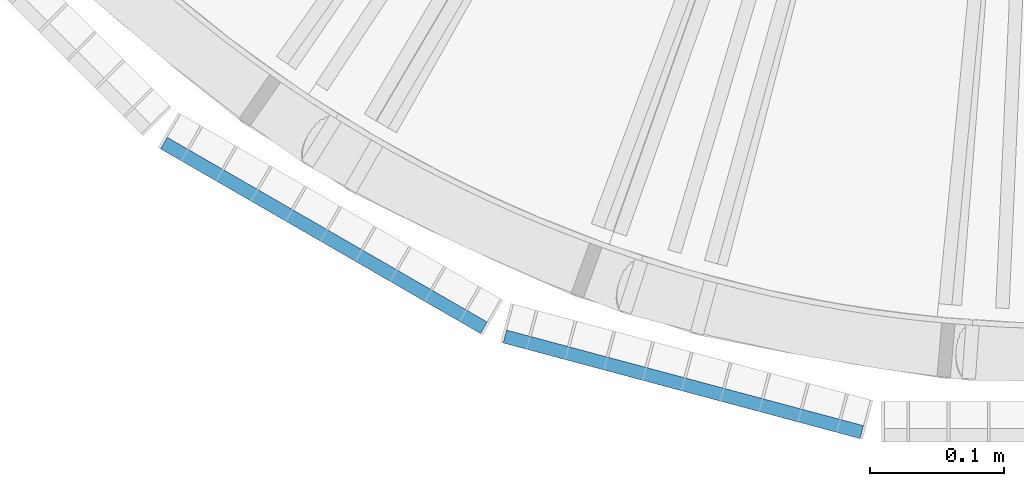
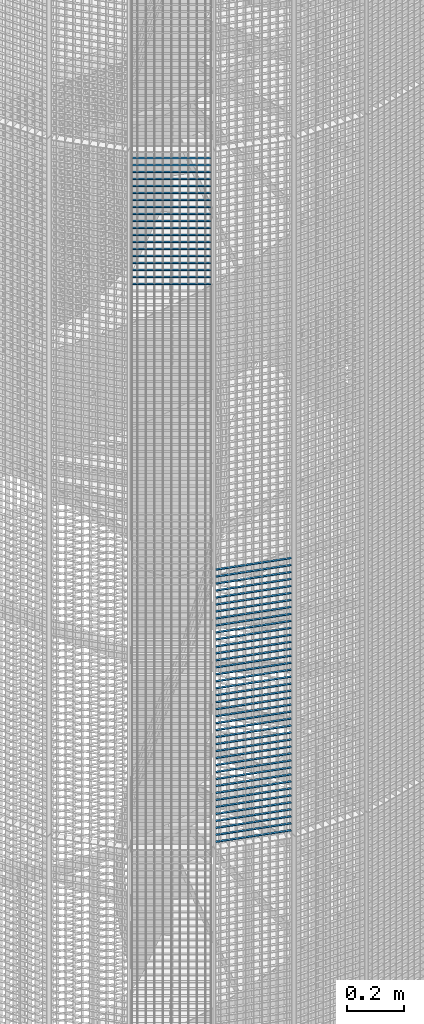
# One storey, part 159 of 1183: 59 beams, 2 elements without a shape of their own.
"""IFC2X3 building model written with IfcOpenShell, lengths in millimetres."""

from ifc_helpers import new_model, si_unit, frame, origin_with_axes, origin_2d_with_axis, place, context, subcontext, project, spatial, rectangle, extrude, material, type_object, element, aggregate, save


model = new_model("IFC2X3")

# Units and contexts
model_context = context("Model", 3, precision=1e-05, world=origin_with_axes())
body_context = subcontext(model_context, "Body", "Model", "MODEL_VIEW")
ifc_project = project(units=[si_unit("LENGTHUNIT", "METRE", prefix="MILLI"), si_unit("AREAUNIT", "SQUARE_METRE"), si_unit("VOLUMEUNIT", "CUBIC_METRE"), si_unit("MASSUNIT", "GRAM", prefix="KILO"), si_unit("TIMEUNIT", "SECOND"), si_unit("PLANEANGLEUNIT", "RADIAN"), si_unit("SOLIDANGLEUNIT", "STERADIAN"), si_unit("THERMODYNAMICTEMPERATUREUNIT", "DEGREE_CELSIUS"), si_unit("LUMINOUSINTENSITYUNIT", "LUMEN")], contexts=[model_context])

# Site, building, storey
site_placement = place(None, origin_with_axes())
site = spatial("IfcSite", under=ifc_project, at=site_placement, Name="Undefined", CompositionType="ELEMENT")
building_placement = place(site_placement, origin_with_axes())
building = spatial("IfcBuilding", under=site, at=building_placement, Name="Undefined", CompositionType="ELEMENT")
storey_placement = place(building_placement, origin_with_axes())
storey = spatial("IfcBuildingStorey", under=building, at=storey_placement, Name="Undefined", CompositionType="ELEMENT", Elevation=0.0)

# Assembly, beams
assembly_1_placement = place(storey_placement, origin_with_axes())
assembly_1 = element("IfcElementAssembly", 1, at=assembly_1_placement, inside=storey, Name="BORDURE", AssemblyPlace="NOTDEFINED", PredefinedType="NOTDEFINED")
ifc_material = material(Name="STEEL/S235JR")
beam_type = type_object("IfcBeamType", Name="PL2*10", PredefinedType="NOTDEFINED")
beam_1_placement = place(assembly_1_placement, frame((-421.483733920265, -1039.82309522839, 7200.0), z_axis=(-0.258819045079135, -0.965925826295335, 0.0), x_axis=(0.965925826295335, -0.258819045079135, 0.0)))
beam_1 = element("IfcBeam", 2, at=beam_1_placement, type_object=beam_type, material=ifc_material, Name="ENTRETOISE", context=body_context, shape_type="SweptSolid", body=[
    extrude(rectangle(XDim=2.0, YDim=10.0, at=origin_2d_with_axis()), frame((275.999999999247, 9.09494701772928e-13, 1.53210777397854e-14), z_axis=(-1.0, 0.0, 0.0), x_axis=(0.0, -1.0, 0.0)), (0.0, 0.0, 1.0), 276.0),
])
beam_2_placement = place(assembly_1_placement, frame((-421.483733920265, -1039.82309522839, 7170.0), z_axis=(-0.258819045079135, -0.965925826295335, 0.0), x_axis=(0.965925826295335, -0.258819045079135, 0.0)))
beam_2 = element("IfcBeam", 3, at=beam_2_placement, type_object=beam_type, material=ifc_material, Name="ENTRETOISE", context=body_context, shape_type="SweptSolid", body=[
    extrude(rectangle(XDim=2.0, YDim=10.0, at=origin_2d_with_axis()), frame((275.999999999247, 9.09494701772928e-13, 1.53210777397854e-14), z_axis=(-1.0, 0.0, 0.0), x_axis=(0.0, -1.0, 0.0)), (0.0, 0.0, 1.0), 276.0),
])
beam_3_placement = place(assembly_1_placement, frame((-421.483733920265, -1039.82309522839, 7140.0), z_axis=(-0.258819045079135, -0.965925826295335, 0.0), x_axis=(0.965925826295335, -0.258819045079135, 0.0)))
beam_3 = element("IfcBeam", 4, at=beam_3_placement, type_object=beam_type, material=ifc_material, Name="ENTRETOISE", context=body_context, shape_type="SweptSolid", body=[
    extrude(rectangle(XDim=2.0, YDim=10.0, at=origin_2d_with_axis()), frame((275.999999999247, 9.09494701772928e-13, 1.53210777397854e-14), z_axis=(-1.0, 0.0, 0.0), x_axis=(0.0, -1.0, 0.0)), (0.0, 0.0, 1.0), 276.0),
])
beam_4_placement = place(assembly_1_placement, frame((-421.483733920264, -1039.82309522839, 6720.0), z_axis=(-0.258819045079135, -0.965925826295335, 0.0), x_axis=(0.965925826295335, -0.258819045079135, 0.0)))
beam_4 = element("IfcBeam", 5, at=beam_4_placement, type_object=beam_type, material=ifc_material, Name="ENTRETOISE", context=body_context, shape_type="SweptSolid", body=[
    extrude(rectangle(XDim=2.0, YDim=10.0, at=origin_2d_with_axis()), frame((275.999999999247, 9.09494701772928e-13, 1.53210777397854e-14), z_axis=(-1.0, 0.0, 0.0), x_axis=(0.0, -1.0, 0.0)), (0.0, 0.0, 1.0), 276.0),
])
beam_5_placement = place(assembly_1_placement, frame((-421.483733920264, -1039.82309522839, 6690.0), z_axis=(-0.258819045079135, -0.965925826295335, 0.0), x_axis=(0.965925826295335, -0.258819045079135, 0.0)))
beam_5 = element("IfcBeam", 6, at=beam_5_placement, type_object=beam_type, material=ifc_material, Name="ENTRETOISE", context=body_context, shape_type="SweptSolid", body=[
    extrude(rectangle(XDim=2.0, YDim=10.0, at=origin_2d_with_axis()), frame((275.999999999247, 9.09494701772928e-13, 1.53210777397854e-14), z_axis=(-1.0, 0.0, 0.0), x_axis=(0.0, -1.0, 0.0)), (0.0, 0.0, 1.0), 276.0),
])
beam_6_placement = place(assembly_1_placement, frame((-421.483733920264, -1039.82309522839, 6750.0), z_axis=(-0.258819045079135, -0.965925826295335, 0.0), x_axis=(0.965925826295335, -0.258819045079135, 0.0)))
beam_6 = element("IfcBeam", 7, at=beam_6_placement, type_object=beam_type, material=ifc_material, Name="ENTRETOISE", context=body_context, shape_type="SweptSolid", body=[
    extrude(rectangle(XDim=2.0, YDim=10.0, at=origin_2d_with_axis()), frame((275.999999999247, 9.09494701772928e-13, 1.53210777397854e-14), z_axis=(-1.0, 0.0, 0.0), x_axis=(0.0, -1.0, 0.0)), (0.0, 0.0, 1.0), 276.0),
])
beam_7_placement = place(assembly_1_placement, frame((-421.483733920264, -1039.82309522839, 6660.0), z_axis=(-0.258819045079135, -0.965925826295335, 0.0), x_axis=(0.965925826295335, -0.258819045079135, 0.0)))
beam_7 = element("IfcBeam", 8, at=beam_7_placement, type_object=beam_type, material=ifc_material, Name="ENTRETOISE", context=body_context, shape_type="SweptSolid", body=[
    extrude(rectangle(XDim=2.0, YDim=10.0, at=origin_2d_with_axis()), frame((275.999999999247, 9.09494701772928e-13, 1.53210777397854e-14), z_axis=(-1.0, 0.0, 0.0), x_axis=(0.0, -1.0, 0.0)), (0.0, 0.0, 1.0), 276.0),
])
beam_8_placement = place(assembly_1_placement, frame((-421.483733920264, -1039.82309522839, 6630.0), z_axis=(-0.258819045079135, -0.965925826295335, 0.0), x_axis=(0.965925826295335, -0.258819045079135, 0.0)))
beam_8 = element("IfcBeam", 9, at=beam_8_placement, type_object=beam_type, material=ifc_material, Name="ENTRETOISE", context=body_context, shape_type="SweptSolid", body=[
    extrude(rectangle(XDim=2.0, YDim=10.0, at=origin_2d_with_axis()), frame((275.999999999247, 9.09494701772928e-13, 1.53210777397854e-14), z_axis=(-1.0, 0.0, 0.0), x_axis=(0.0, -1.0, 0.0)), (0.0, 0.0, 1.0), 276.0),
])
beam_9_placement = place(assembly_1_placement, frame((-421.483733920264, -1039.82309522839, 6780.0), z_axis=(-0.258819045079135, -0.965925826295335, 0.0), x_axis=(0.965925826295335, -0.258819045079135, 0.0)))
beam_9 = element("IfcBeam", 10, at=beam_9_placement, type_object=beam_type, material=ifc_material, Name="ENTRETOISE", context=body_context, shape_type="SweptSolid", body=[
    extrude(rectangle(XDim=2.0, YDim=10.0, at=origin_2d_with_axis()), frame((275.999999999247, 9.09494701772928e-13, 1.53210777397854e-14), z_axis=(-1.0, 0.0, 0.0), x_axis=(0.0, -1.0, 0.0)), (0.0, 0.0, 1.0), 276.0),
])
beam_10_placement = place(assembly_1_placement, frame((-421.483733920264, -1039.82309522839, 6600.0), z_axis=(-0.258819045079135, -0.965925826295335, 0.0), x_axis=(0.965925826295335, -0.258819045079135, 0.0)))
beam_10 = element("IfcBeam", 11, at=beam_10_placement, type_object=beam_type, material=ifc_material, Name="ENTRETOISE", context=body_context, shape_type="SweptSolid", body=[
    extrude(rectangle(XDim=2.0, YDim=10.0, at=origin_2d_with_axis()), frame((275.999999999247, 9.09494701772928e-13, 1.53210777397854e-14), z_axis=(-1.0, 0.0, 0.0), x_axis=(0.0, -1.0, 0.0)), (0.0, 0.0, 1.0), 276.0),
])
beam_11_placement = place(assembly_1_placement, frame((-421.483733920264, -1039.82309522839, 6810.0), z_axis=(-0.258819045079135, -0.965925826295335, 0.0), x_axis=(0.965925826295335, -0.258819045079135, 0.0)))
beam_11 = element("IfcBeam", 12, at=beam_11_placement, type_object=beam_type, material=ifc_material, Name="ENTRETOISE", context=body_context, shape_type="SweptSolid", body=[
    extrude(rectangle(XDim=2.0, YDim=10.0, at=origin_2d_with_axis()), frame((275.999999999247, 9.09494701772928e-13, 1.53210777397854e-14), z_axis=(-1.0, 0.0, 0.0), x_axis=(0.0, -1.0, 0.0)), (0.0, 0.0, 1.0), 276.0),
])
beam_12_placement = place(assembly_1_placement, frame((-421.483733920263, -1039.82309522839, 6570.0), z_axis=(-0.258819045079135, -0.965925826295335, 0.0), x_axis=(0.965925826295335, -0.258819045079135, 0.0)))
beam_12 = element("IfcBeam", 13, at=beam_12_placement, type_object=beam_type, material=ifc_material, Name="ENTRETOISE", context=body_context, shape_type="SweptSolid", body=[
    extrude(rectangle(XDim=2.0, YDim=10.0, at=origin_2d_with_axis()), frame((275.999999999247, 9.09494701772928e-13, 1.53210777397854e-14), z_axis=(-1.0, 0.0, 0.0), x_axis=(0.0, -1.0, 0.0)), (0.0, 0.0, 1.0), 276.0),
])
beam_13_placement = place(assembly_1_placement, frame((-421.483733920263, -1039.82309522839, 6540.0), z_axis=(-0.258819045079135, -0.965925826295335, 0.0), x_axis=(0.965925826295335, -0.258819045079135, 0.0)))
beam_13 = element("IfcBeam", 14, at=beam_13_placement, type_object=beam_type, material=ifc_material, Name="ENTRETOISE", context=body_context, shape_type="SweptSolid", body=[
    extrude(rectangle(XDim=2.0, YDim=10.0, at=origin_2d_with_axis()), frame((275.999999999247, 9.09494701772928e-13, 1.53210777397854e-14), z_axis=(-1.0, 0.0, 0.0), x_axis=(0.0, -1.0, 0.0)), (0.0, 0.0, 1.0), 276.0),
])
beam_14_placement = place(assembly_1_placement, frame((-421.483733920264, -1039.82309522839, 6840.0), z_axis=(-0.258819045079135, -0.965925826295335, 0.0), x_axis=(0.965925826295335, -0.258819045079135, 0.0)))
beam_14 = element("IfcBeam", 15, at=beam_14_placement, type_object=beam_type, material=ifc_material, Name="ENTRETOISE", context=body_context, shape_type="SweptSolid", body=[
    extrude(rectangle(XDim=2.0, YDim=10.0, at=origin_2d_with_axis()), frame((275.999999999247, 9.09494701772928e-13, 1.53210777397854e-14), z_axis=(-1.0, 0.0, 0.0), x_axis=(0.0, -1.0, 0.0)), (0.0, 0.0, 1.0), 276.0),
])
beam_15_placement = place(assembly_1_placement, frame((-421.483733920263, -1039.82309522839, 6510.0), z_axis=(-0.258819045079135, -0.965925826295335, 0.0), x_axis=(0.965925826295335, -0.258819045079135, 0.0)))
beam_15 = element("IfcBeam", 16, at=beam_15_placement, type_object=beam_type, material=ifc_material, Name="ENTRETOISE", context=body_context, shape_type="SweptSolid", body=[
    extrude(rectangle(XDim=2.0, YDim=10.0, at=origin_2d_with_axis()), frame((275.999999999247, 9.09494701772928e-13, 1.53210777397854e-14), z_axis=(-1.0, 0.0, 0.0), x_axis=(0.0, -1.0, 0.0)), (0.0, 0.0, 1.0), 276.0),
])
beam_16_placement = place(assembly_1_placement, frame((-421.483733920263, -1039.82309522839, 6480.0), z_axis=(-0.258819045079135, -0.965925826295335, 0.0), x_axis=(0.965925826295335, -0.258819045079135, 0.0)))
beam_16 = element("IfcBeam", 17, at=beam_16_placement, type_object=beam_type, material=ifc_material, Name="ENTRETOISE", context=body_context, shape_type="SweptSolid", body=[
    extrude(rectangle(XDim=2.0, YDim=10.0, at=origin_2d_with_axis()), frame((275.999999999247, 9.09494701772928e-13, 1.53210777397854e-14), z_axis=(-1.0, 0.0, 0.0), x_axis=(0.0, -1.0, 0.0)), (0.0, 0.0, 1.0), 276.0),
])
beam_17_placement = place(assembly_1_placement, frame((-421.483733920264, -1039.82309522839, 6870.0), z_axis=(-0.258819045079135, -0.965925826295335, 0.0), x_axis=(0.965925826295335, -0.258819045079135, 0.0)))
beam_17 = element("IfcBeam", 18, at=beam_17_placement, type_object=beam_type, material=ifc_material, Name="ENTRETOISE", context=body_context, shape_type="SweptSolid", body=[
    extrude(rectangle(XDim=2.0, YDim=10.0, at=origin_2d_with_axis()), frame((275.999999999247, 9.09494701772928e-13, 1.53210777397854e-14), z_axis=(-1.0, 0.0, 0.0), x_axis=(0.0, -1.0, 0.0)), (0.0, 0.0, 1.0), 276.0),
])
beam_18_placement = place(assembly_1_placement, frame((-421.483733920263, -1039.82309522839, 6450.0), z_axis=(-0.258819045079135, -0.965925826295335, 0.0), x_axis=(0.965925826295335, -0.258819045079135, 0.0)))
beam_18 = element("IfcBeam", 19, at=beam_18_placement, type_object=beam_type, material=ifc_material, Name="ENTRETOISE", context=body_context, shape_type="SweptSolid", body=[
    extrude(rectangle(XDim=2.0, YDim=10.0, at=origin_2d_with_axis()), frame((275.999999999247, 9.09494701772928e-13, 1.53210777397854e-14), z_axis=(-1.0, 0.0, 0.0), x_axis=(0.0, -1.0, 0.0)), (0.0, 0.0, 1.0), 276.0),
])
beam_19_placement = place(assembly_1_placement, frame((-421.483733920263, -1039.82309522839, 6420.0), z_axis=(-0.258819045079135, -0.965925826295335, 0.0), x_axis=(0.965925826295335, -0.258819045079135, 0.0)))
beam_19 = element("IfcBeam", 20, at=beam_19_placement, type_object=beam_type, material=ifc_material, Name="ENTRETOISE", context=body_context, shape_type="SweptSolid", body=[
    extrude(rectangle(XDim=2.0, YDim=10.0, at=origin_2d_with_axis()), frame((275.999999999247, 9.09494701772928e-13, 1.53210777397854e-14), z_axis=(-1.0, 0.0, 0.0), x_axis=(0.0, -1.0, 0.0)), (0.0, 0.0, 1.0), 276.0),
])
beam_20_placement = place(assembly_1_placement, frame((-421.483733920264, -1039.82309522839, 6900.0), z_axis=(-0.258819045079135, -0.965925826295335, 0.0), x_axis=(0.965925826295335, -0.258819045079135, 0.0)))
beam_20 = element("IfcBeam", 21, at=beam_20_placement, type_object=beam_type, material=ifc_material, Name="ENTRETOISE", context=body_context, shape_type="SweptSolid", body=[
    extrude(rectangle(XDim=2.0, YDim=10.0, at=origin_2d_with_axis()), frame((275.999999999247, 9.09494701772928e-13, 1.53210777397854e-14), z_axis=(-1.0, 0.0, 0.0), x_axis=(0.0, -1.0, 0.0)), (0.0, 0.0, 1.0), 276.0),
])
beam_21_placement = place(assembly_1_placement, frame((-421.483733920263, -1039.82309522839, 6390.0), z_axis=(-0.258819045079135, -0.965925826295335, 0.0), x_axis=(0.965925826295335, -0.258819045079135, 0.0)))
beam_21 = element("IfcBeam", 22, at=beam_21_placement, type_object=beam_type, material=ifc_material, Name="ENTRETOISE", context=body_context, shape_type="SweptSolid", body=[
    extrude(rectangle(XDim=2.0, YDim=10.0, at=origin_2d_with_axis()), frame((275.999999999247, 9.09494701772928e-13, 1.53210777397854e-14), z_axis=(-1.0, 0.0, 0.0), x_axis=(0.0, -1.0, 0.0)), (0.0, 0.0, 1.0), 276.0),
])
beam_22_placement = place(assembly_1_placement, frame((-421.483733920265, -1039.82309522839, 6930.0), z_axis=(-0.258819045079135, -0.965925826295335, 0.0), x_axis=(0.965925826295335, -0.258819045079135, 0.0)))
beam_22 = element("IfcBeam", 23, at=beam_22_placement, type_object=beam_type, material=ifc_material, Name="ENTRETOISE", context=body_context, shape_type="SweptSolid", body=[
    extrude(rectangle(XDim=2.0, YDim=10.0, at=origin_2d_with_axis()), frame((275.999999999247, 9.09494701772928e-13, 1.53210777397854e-14), z_axis=(-1.0, 0.0, 0.0), x_axis=(0.0, -1.0, 0.0)), (0.0, 0.0, 1.0), 276.0),
])
beam_23_placement = place(assembly_1_placement, frame((-421.483733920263, -1039.82309522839, 6360.0), z_axis=(-0.258819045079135, -0.965925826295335, 0.0), x_axis=(0.965925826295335, -0.258819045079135, 0.0)))
beam_23 = element("IfcBeam", 24, at=beam_23_placement, type_object=beam_type, material=ifc_material, Name="ENTRETOISE", context=body_context, shape_type="SweptSolid", body=[
    extrude(rectangle(XDim=2.0, YDim=10.0, at=origin_2d_with_axis()), frame((275.999999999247, 9.09494701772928e-13, 1.53210777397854e-14), z_axis=(-1.0, 0.0, 0.0), x_axis=(0.0, -1.0, 0.0)), (0.0, 0.0, 1.0), 276.0),
])
beam_24_placement = place(assembly_1_placement, frame((-421.483733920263, -1039.82309522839, 6330.0), z_axis=(-0.258819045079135, -0.965925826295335, 0.0), x_axis=(0.965925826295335, -0.258819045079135, 0.0)))
beam_24 = element("IfcBeam", 25, at=beam_24_placement, type_object=beam_type, material=ifc_material, Name="ENTRETOISE", context=body_context, shape_type="SweptSolid", body=[
    extrude(rectangle(XDim=2.0, YDim=10.0, at=origin_2d_with_axis()), frame((275.999999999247, 9.09494701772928e-13, 1.53210777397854e-14), z_axis=(-1.0, 0.0, 0.0), x_axis=(0.0, -1.0, 0.0)), (0.0, 0.0, 1.0), 276.0),
])
beam_25_placement = place(assembly_1_placement, frame((-421.483733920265, -1039.82309522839, 6960.0), z_axis=(-0.258819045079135, -0.965925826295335, 0.0), x_axis=(0.965925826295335, -0.258819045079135, 0.0)))
beam_25 = element("IfcBeam", 26, at=beam_25_placement, type_object=beam_type, material=ifc_material, Name="ENTRETOISE", context=body_context, shape_type="SweptSolid", body=[
    extrude(rectangle(XDim=2.0, YDim=10.0, at=origin_2d_with_axis()), frame((275.999999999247, 9.09494701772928e-13, 1.53210777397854e-14), z_axis=(-1.0, 0.0, 0.0), x_axis=(0.0, -1.0, 0.0)), (0.0, 0.0, 1.0), 276.0),
])
beam_26_placement = place(assembly_1_placement, frame((-421.483733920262, -1039.82309522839, 6300.0), z_axis=(-0.258819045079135, -0.965925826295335, 0.0), x_axis=(0.965925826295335, -0.258819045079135, 0.0)))
beam_26 = element("IfcBeam", 27, at=beam_26_placement, type_object=beam_type, material=ifc_material, Name="ENTRETOISE", context=body_context, shape_type="SweptSolid", body=[
    extrude(rectangle(XDim=2.0, YDim=10.0, at=origin_2d_with_axis()), frame((275.999999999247, 9.09494701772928e-13, 1.53210777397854e-14), z_axis=(-1.0, 0.0, 0.0), x_axis=(0.0, -1.0, 0.0)), (0.0, 0.0, 1.0), 276.0),
])
beam_27_placement = place(assembly_1_placement, frame((-421.483733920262, -1039.82309522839, 6270.0), z_axis=(-0.258819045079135, -0.965925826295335, 0.0), x_axis=(0.965925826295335, -0.258819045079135, 0.0)))
beam_27 = element("IfcBeam", 28, at=beam_27_placement, type_object=beam_type, material=ifc_material, Name="ENTRETOISE", context=body_context, shape_type="SweptSolid", body=[
    extrude(rectangle(XDim=2.0, YDim=10.0, at=origin_2d_with_axis()), frame((275.999999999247, 9.09494701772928e-13, 1.53210777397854e-14), z_axis=(-1.0, 0.0, 0.0), x_axis=(0.0, -1.0, 0.0)), (0.0, 0.0, 1.0), 276.0),
])
beam_28_placement = place(assembly_1_placement, frame((-421.483733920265, -1039.82309522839, 6990.0), z_axis=(-0.258819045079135, -0.965925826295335, 0.0), x_axis=(0.965925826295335, -0.258819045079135, 0.0)))
beam_28 = element("IfcBeam", 29, at=beam_28_placement, type_object=beam_type, material=ifc_material, Name="ENTRETOISE", context=body_context, shape_type="SweptSolid", body=[
    extrude(rectangle(XDim=2.0, YDim=10.0, at=origin_2d_with_axis()), frame((275.999999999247, 9.09494701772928e-13, 1.53210777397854e-14), z_axis=(-1.0, 0.0, 0.0), x_axis=(0.0, -1.0, 0.0)), (0.0, 0.0, 1.0), 276.0),
])
beam_29_placement = place(assembly_1_placement, frame((-421.483733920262, -1039.82309522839, 6240.0), z_axis=(-0.258819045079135, -0.965925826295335, 0.0), x_axis=(0.965925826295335, -0.258819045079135, 0.0)))
beam_29 = element("IfcBeam", 30, at=beam_29_placement, type_object=beam_type, material=ifc_material, Name="ENTRETOISE", context=body_context, shape_type="SweptSolid", body=[
    extrude(rectangle(XDim=2.0, YDim=10.0, at=origin_2d_with_axis()), frame((275.999999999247, 9.09494701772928e-13, 1.53210777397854e-14), z_axis=(-1.0, 0.0, 0.0), x_axis=(0.0, -1.0, 0.0)), (0.0, 0.0, 1.0), 276.0),
])
beam_30_placement = place(assembly_1_placement, frame((-421.483733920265, -1039.82309522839, 7020.0), z_axis=(-0.258819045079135, -0.965925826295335, 0.0), x_axis=(0.965925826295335, -0.258819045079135, 0.0)))
beam_30 = element("IfcBeam", 31, at=beam_30_placement, type_object=beam_type, material=ifc_material, Name="ENTRETOISE", context=body_context, shape_type="SweptSolid", body=[
    extrude(rectangle(XDim=2.0, YDim=10.0, at=origin_2d_with_axis()), frame((275.999999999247, 9.09494701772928e-13, 1.53210777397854e-14), z_axis=(-1.0, 0.0, 0.0), x_axis=(0.0, -1.0, 0.0)), (0.0, 0.0, 1.0), 276.0),
])
beam_31_placement = place(assembly_1_placement, frame((-421.483733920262, -1039.82309522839, 6210.0), z_axis=(-0.258819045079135, -0.965925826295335, 0.0), x_axis=(0.965925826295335, -0.258819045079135, 0.0)))
beam_31 = element("IfcBeam", 32, at=beam_31_placement, type_object=beam_type, material=ifc_material, Name="ENTRETOISE", context=body_context, shape_type="SweptSolid", body=[
    extrude(rectangle(XDim=2.0, YDim=10.0, at=origin_2d_with_axis()), frame((275.999999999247, 9.09494701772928e-13, 1.53210777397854e-14), z_axis=(-1.0, 0.0, 0.0), x_axis=(0.0, -1.0, 0.0)), (0.0, 0.0, 1.0), 276.0),
])
beam_32_placement = place(assembly_1_placement, frame((-421.483733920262, -1039.82309522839, 6180.0), z_axis=(-0.258819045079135, -0.965925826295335, 0.0), x_axis=(0.965925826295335, -0.258819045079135, 0.0)))
beam_32 = element("IfcBeam", 33, at=beam_32_placement, type_object=beam_type, material=ifc_material, Name="ENTRETOISE", context=body_context, shape_type="SweptSolid", body=[
    extrude(rectangle(XDim=2.0, YDim=10.0, at=origin_2d_with_axis()), frame((275.999999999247, 9.09494701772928e-13, 1.53210777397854e-14), z_axis=(-1.0, 0.0, 0.0), x_axis=(0.0, -1.0, 0.0)), (0.0, 0.0, 1.0), 276.0),
])
beam_33_placement = place(assembly_1_placement, frame((-421.483733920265, -1039.82309522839, 7050.0), z_axis=(-0.258819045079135, -0.965925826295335, 0.0), x_axis=(0.965925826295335, -0.258819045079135, 0.0)))
beam_33 = element("IfcBeam", 34, at=beam_33_placement, type_object=beam_type, material=ifc_material, Name="ENTRETOISE", context=body_context, shape_type="SweptSolid", body=[
    extrude(rectangle(XDim=2.0, YDim=10.0, at=origin_2d_with_axis()), frame((275.999999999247, 9.09494701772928e-13, 1.53210777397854e-14), z_axis=(-1.0, 0.0, 0.0), x_axis=(0.0, -1.0, 0.0)), (0.0, 0.0, 1.0), 276.0),
])
beam_34_placement = place(assembly_1_placement, frame((-421.483733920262, -1039.82309522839, 6150.0), z_axis=(-0.258819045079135, -0.965925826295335, 0.0), x_axis=(0.965925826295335, -0.258819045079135, 0.0)))
beam_34 = element("IfcBeam", 35, at=beam_34_placement, type_object=beam_type, material=ifc_material, Name="ENTRETOISE", context=body_context, shape_type="SweptSolid", body=[
    extrude(rectangle(XDim=2.0, YDim=10.0, at=origin_2d_with_axis()), frame((275.999999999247, 9.09494701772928e-13, 1.53210777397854e-14), z_axis=(-1.0, 0.0, 0.0), x_axis=(0.0, -1.0, 0.0)), (0.0, 0.0, 1.0), 276.0),
])
beam_35_placement = place(assembly_1_placement, frame((-421.483733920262, -1039.82309522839, 6120.0), z_axis=(-0.258819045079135, -0.965925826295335, 0.0), x_axis=(0.965925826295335, -0.258819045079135, 0.0)))
beam_35 = element("IfcBeam", 36, at=beam_35_placement, type_object=beam_type, material=ifc_material, Name="ENTRETOISE", context=body_context, shape_type="SweptSolid", body=[
    extrude(rectangle(XDim=2.0, YDim=10.0, at=origin_2d_with_axis()), frame((275.999999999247, 9.09494701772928e-13, 1.53210777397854e-14), z_axis=(-1.0, 0.0, 0.0), x_axis=(0.0, -1.0, 0.0)), (0.0, 0.0, 1.0), 276.0),
])
beam_36_placement = place(assembly_1_placement, frame((-421.483733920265, -1039.82309522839, 7080.0), z_axis=(-0.258819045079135, -0.965925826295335, 0.0), x_axis=(0.965925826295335, -0.258819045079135, 0.0)))
beam_36 = element("IfcBeam", 37, at=beam_36_placement, type_object=beam_type, material=ifc_material, Name="ENTRETOISE", context=body_context, shape_type="SweptSolid", body=[
    extrude(rectangle(XDim=2.0, YDim=10.0, at=origin_2d_with_axis()), frame((275.999999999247, 9.09494701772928e-13, 1.53210777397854e-14), z_axis=(-1.0, 0.0, 0.0), x_axis=(0.0, -1.0, 0.0)), (0.0, 0.0, 1.0), 276.0),
])
beam_37_placement = place(assembly_1_placement, frame((-421.483733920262, -1039.82309522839, 6090.0), z_axis=(-0.258819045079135, -0.965925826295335, 0.0), x_axis=(0.965925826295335, -0.258819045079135, 0.0)))
beam_37 = element("IfcBeam", 38, at=beam_37_placement, type_object=beam_type, material=ifc_material, Name="ENTRETOISE", context=body_context, shape_type="SweptSolid", body=[
    extrude(rectangle(XDim=2.0, YDim=10.0, at=origin_2d_with_axis()), frame((275.999999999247, 9.09494701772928e-13, 1.53210777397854e-14), z_axis=(-1.0, 0.0, 0.0), x_axis=(0.0, -1.0, 0.0)), (0.0, 0.0, 1.0), 276.0),
])
beam_38_placement = place(assembly_1_placement, frame((-421.483733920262, -1039.82309522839, 6060.0), z_axis=(-0.258819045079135, -0.965925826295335, 0.0), x_axis=(0.965925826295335, -0.258819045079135, 0.0)))
beam_38 = element("IfcBeam", 39, at=beam_38_placement, type_object=beam_type, material=ifc_material, Name="ENTRETOISE", context=body_context, shape_type="SweptSolid", body=[
    extrude(rectangle(XDim=2.0, YDim=10.0, at=origin_2d_with_axis()), frame((275.999999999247, 9.09494701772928e-13, 1.53210777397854e-14), z_axis=(-1.0, 0.0, 0.0), x_axis=(0.0, -1.0, 0.0)), (0.0, 0.0, 1.0), 276.0),
])
beam_39_placement = place(assembly_1_placement, frame((-421.483733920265, -1039.82309522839, 7110.0), z_axis=(-0.258819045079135, -0.965925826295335, 0.0), x_axis=(0.965925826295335, -0.258819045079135, 0.0)))
beam_39 = element("IfcBeam", 40, at=beam_39_placement, type_object=beam_type, material=ifc_material, Name="ENTRETOISE", context=body_context, shape_type="SweptSolid", body=[
    extrude(rectangle(XDim=2.0, YDim=10.0, at=origin_2d_with_axis()), frame((275.999999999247, 9.09494701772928e-13, 1.53210777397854e-14), z_axis=(-1.0, 0.0, 0.0), x_axis=(0.0, -1.0, 0.0)), (0.0, 0.0, 1.0), 276.0),
])
beam_40_placement = place(assembly_1_placement, frame((-421.48373392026, -1039.82309522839, 6030.0), z_axis=(-0.258819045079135, -0.965925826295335, 0.0), x_axis=(0.965925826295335, -0.258819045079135, 0.0)))
beam_40 = element("IfcBeam", 41, at=beam_40_placement, type_object=beam_type, material=ifc_material, Name="ENTRETOISE", context=body_context, shape_type="SweptSolid", body=[
    extrude(rectangle(XDim=2.0, YDim=10.0, at=origin_2d_with_axis()), frame((275.999999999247, 9.09494701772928e-13, 1.53210777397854e-14), z_axis=(-1.0, 0.0, 0.0), x_axis=(0.0, -1.0, 0.0)), (0.0, 0.0, 1.0), 276.0),
])
aggregate(assembly_1, [beam_1, beam_2, beam_3, beam_4, beam_5, beam_6, beam_7, beam_8, beam_9, beam_10, beam_11, beam_12, beam_13, beam_14, beam_15, beam_16, beam_17, beam_18, beam_19, beam_20, beam_21, beam_22, beam_23, beam_24, beam_25, beam_26, beam_27, beam_28, beam_29, beam_30, beam_31, beam_32, beam_33, beam_34, beam_35, beam_36, beam_37, beam_38, beam_39, beam_40])

assembly_2_placement = place(storey_placement, origin_with_axes())
assembly_2 = element("IfcElementAssembly", 42, at=assembly_2_placement, inside=storey, Name="BORDURE", AssemblyPlace="NOTDEFINED", PredefinedType="NOTDEFINED")
beam_41_placement = place(assembly_2_placement, frame((-676.248044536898, -895.303964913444, 8970.0), z_axis=(-0.49999999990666, -0.866025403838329, 0.0), x_axis=(0.866025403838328, -0.49999999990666, 0.0)))
beam_41 = element("IfcBeam", 43, at=beam_41_placement, type_object=beam_type, material=ifc_material, Name="ENTRETOISE", context=body_context, shape_type="SweptSolid", body=[
    extrude(rectangle(XDim=2.0, YDim=10.0, at=origin_2d_with_axis()), frame((275.999999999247, 9.09494701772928e-13, 1.53210777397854e-14), z_axis=(-1.0, 0.0, 0.0), x_axis=(0.0, -1.0, 0.0)), (0.0, 0.0, 1.0), 276.0),
])
beam_42_placement = place(assembly_2_placement, frame((-676.248044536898, -895.303964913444, 8940.0), z_axis=(-0.49999999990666, -0.866025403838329, 0.0), x_axis=(0.866025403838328, -0.49999999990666, 0.0)))
beam_42 = element("IfcBeam", 44, at=beam_42_placement, type_object=beam_type, material=ifc_material, Name="ENTRETOISE", context=body_context, shape_type="SweptSolid", body=[
    extrude(rectangle(XDim=2.0, YDim=10.0, at=origin_2d_with_axis()), frame((275.999999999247, 9.09494701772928e-13, 1.53210777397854e-14), z_axis=(-1.0, 0.0, 0.0), x_axis=(0.0, -1.0, 0.0)), (0.0, 0.0, 1.0), 276.0),
])
beam_43_placement = place(assembly_2_placement, frame((-676.248044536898, -895.303964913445, 8910.0), z_axis=(-0.49999999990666, -0.866025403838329, 0.0), x_axis=(0.866025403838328, -0.49999999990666, 0.0)))
beam_43 = element("IfcBeam", 45, at=beam_43_placement, type_object=beam_type, material=ifc_material, Name="ENTRETOISE", context=body_context, shape_type="SweptSolid", body=[
    extrude(rectangle(XDim=2.0, YDim=10.0, at=origin_2d_with_axis()), frame((275.999999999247, 9.09494701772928e-13, 1.53210777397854e-14), z_axis=(-1.0, 0.0, 0.0), x_axis=(0.0, -1.0, 0.0)), (0.0, 0.0, 1.0), 276.0),
])
beam_44_placement = place(assembly_2_placement, frame((-676.248044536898, -895.303964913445, 8880.0), z_axis=(-0.49999999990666, -0.866025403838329, 0.0), x_axis=(0.866025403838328, -0.49999999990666, 0.0)))
beam_44 = element("IfcBeam", 46, at=beam_44_placement, type_object=beam_type, material=ifc_material, Name="ENTRETOISE", context=body_context, shape_type="SweptSolid", body=[
    extrude(rectangle(XDim=2.0, YDim=10.0, at=origin_2d_with_axis()), frame((275.999999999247, 9.09494701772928e-13, 1.53210777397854e-14), z_axis=(-1.0, 0.0, 0.0), x_axis=(0.0, -1.0, 0.0)), (0.0, 0.0, 1.0), 276.0),
])
beam_45_placement = place(assembly_2_placement, frame((-676.248044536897, -895.303964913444, 8850.0), z_axis=(-0.49999999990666, -0.866025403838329, 0.0), x_axis=(0.866025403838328, -0.49999999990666, 0.0)))
beam_45 = element("IfcBeam", 47, at=beam_45_placement, type_object=beam_type, material=ifc_material, Name="ENTRETOISE", context=body_context, shape_type="SweptSolid", body=[
    extrude(rectangle(XDim=2.0, YDim=10.0, at=origin_2d_with_axis()), frame((275.999999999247, 9.09494701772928e-13, 1.53210777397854e-14), z_axis=(-1.0, 0.0, 0.0), x_axis=(0.0, -1.0, 0.0)), (0.0, 0.0, 1.0), 276.0),
])
beam_46_placement = place(assembly_2_placement, frame((-676.248044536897, -895.303964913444, 8820.0), z_axis=(-0.49999999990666, -0.866025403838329, 0.0), x_axis=(0.866025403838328, -0.49999999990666, 0.0)))
beam_46 = element("IfcBeam", 48, at=beam_46_placement, type_object=beam_type, material=ifc_material, Name="ENTRETOISE", context=body_context, shape_type="SweptSolid", body=[
    extrude(rectangle(XDim=2.0, YDim=10.0, at=origin_2d_with_axis()), frame((275.999999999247, 9.09494701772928e-13, 1.53210777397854e-14), z_axis=(-1.0, 0.0, 0.0), x_axis=(0.0, -1.0, 0.0)), (0.0, 0.0, 1.0), 276.0),
])
beam_47_placement = place(assembly_2_placement, frame((-676.248044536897, -895.303964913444, 8790.0), z_axis=(-0.49999999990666, -0.866025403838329, 0.0), x_axis=(0.866025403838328, -0.49999999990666, 0.0)))
beam_47 = element("IfcBeam", 49, at=beam_47_placement, type_object=beam_type, material=ifc_material, Name="ENTRETOISE", context=body_context, shape_type="SweptSolid", body=[
    extrude(rectangle(XDim=2.0, YDim=10.0, at=origin_2d_with_axis()), frame((275.999999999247, 9.09494701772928e-13, 1.53210777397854e-14), z_axis=(-1.0, 0.0, 0.0), x_axis=(0.0, -1.0, 0.0)), (0.0, 0.0, 1.0), 276.0),
])
beam_48_placement = place(assembly_2_placement, frame((-676.248044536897, -895.303964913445, 8760.0), z_axis=(-0.49999999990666, -0.866025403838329, 0.0), x_axis=(0.866025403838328, -0.49999999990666, 0.0)))
beam_48 = element("IfcBeam", 50, at=beam_48_placement, type_object=beam_type, material=ifc_material, Name="ENTRETOISE", context=body_context, shape_type="SweptSolid", body=[
    extrude(rectangle(XDim=2.0, YDim=10.0, at=origin_2d_with_axis()), frame((275.999999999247, 9.09494701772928e-13, 1.53210777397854e-14), z_axis=(-1.0, 0.0, 0.0), x_axis=(0.0, -1.0, 0.0)), (0.0, 0.0, 1.0), 276.0),
])
beam_49_placement = place(assembly_2_placement, frame((-676.248044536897, -895.303964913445, 8730.0), z_axis=(-0.49999999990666, -0.866025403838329, 0.0), x_axis=(0.866025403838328, -0.49999999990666, 0.0)))
beam_49 = element("IfcBeam", 51, at=beam_49_placement, type_object=beam_type, material=ifc_material, Name="ENTRETOISE", context=body_context, shape_type="SweptSolid", body=[
    extrude(rectangle(XDim=2.0, YDim=10.0, at=origin_2d_with_axis()), frame((275.999999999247, 9.09494701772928e-13, 1.53210777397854e-14), z_axis=(-1.0, 0.0, 0.0), x_axis=(0.0, -1.0, 0.0)), (0.0, 0.0, 1.0), 276.0),
])
beam_50_placement = place(assembly_2_placement, frame((-676.248044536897, -895.303964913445, 8700.0), z_axis=(-0.49999999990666, -0.866025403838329, 0.0), x_axis=(0.866025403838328, -0.49999999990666, 0.0)))
beam_50 = element("IfcBeam", 52, at=beam_50_placement, type_object=beam_type, material=ifc_material, Name="ENTRETOISE", context=body_context, shape_type="SweptSolid", body=[
    extrude(rectangle(XDim=2.0, YDim=10.0, at=origin_2d_with_axis()), frame((275.999999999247, 9.09494701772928e-13, 1.53210777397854e-14), z_axis=(-1.0, 0.0, 0.0), x_axis=(0.0, -1.0, 0.0)), (0.0, 0.0, 1.0), 276.0),
])
beam_51_placement = place(assembly_2_placement, frame((-676.248044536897, -895.303964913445, 8670.0), z_axis=(-0.49999999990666, -0.866025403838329, 0.0), x_axis=(0.866025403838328, -0.49999999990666, 0.0)))
beam_51 = element("IfcBeam", 53, at=beam_51_placement, type_object=beam_type, material=ifc_material, Name="ENTRETOISE", context=body_context, shape_type="SweptSolid", body=[
    extrude(rectangle(XDim=2.0, YDim=10.0, at=origin_2d_with_axis()), frame((275.999999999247, 9.09494701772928e-13, 1.53210777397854e-14), z_axis=(-1.0, 0.0, 0.0), x_axis=(0.0, -1.0, 0.0)), (0.0, 0.0, 1.0), 276.0),
])
beam_52_placement = place(assembly_2_placement, frame((-676.248044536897, -895.303964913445, 8640.0), z_axis=(-0.49999999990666, -0.866025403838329, 0.0), x_axis=(0.866025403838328, -0.49999999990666, 0.0)))
beam_52 = element("IfcBeam", 54, at=beam_52_placement, type_object=beam_type, material=ifc_material, Name="ENTRETOISE", context=body_context, shape_type="SweptSolid", body=[
    extrude(rectangle(XDim=2.0, YDim=10.0, at=origin_2d_with_axis()), frame((275.999999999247, 9.09494701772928e-13, 1.53210777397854e-14), z_axis=(-1.0, 0.0, 0.0), x_axis=(0.0, -1.0, 0.0)), (0.0, 0.0, 1.0), 276.0),
])
beam_53_placement = place(assembly_2_placement, frame((-676.248044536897, -895.303964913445, 8610.0), z_axis=(-0.49999999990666, -0.866025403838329, 0.0), x_axis=(0.866025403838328, -0.49999999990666, 0.0)))
beam_53 = element("IfcBeam", 55, at=beam_53_placement, type_object=beam_type, material=ifc_material, Name="ENTRETOISE", context=body_context, shape_type="SweptSolid", body=[
    extrude(rectangle(XDim=2.0, YDim=10.0, at=origin_2d_with_axis()), frame((275.999999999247, 9.09494701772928e-13, 1.53210777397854e-14), z_axis=(-1.0, 0.0, 0.0), x_axis=(0.0, -1.0, 0.0)), (0.0, 0.0, 1.0), 276.0),
])
beam_54_placement = place(assembly_2_placement, frame((-676.248044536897, -895.303964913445, 8580.0), z_axis=(-0.49999999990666, -0.866025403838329, 0.0), x_axis=(0.866025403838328, -0.49999999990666, 0.0)))
beam_54 = element("IfcBeam", 56, at=beam_54_placement, type_object=beam_type, material=ifc_material, Name="ENTRETOISE", context=body_context, shape_type="SweptSolid", body=[
    extrude(rectangle(XDim=2.0, YDim=10.0, at=origin_2d_with_axis()), frame((275.999999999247, 9.09494701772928e-13, 1.53210777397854e-14), z_axis=(-1.0, 0.0, 0.0), x_axis=(0.0, -1.0, 0.0)), (0.0, 0.0, 1.0), 276.0),
])
beam_55_placement = place(assembly_2_placement, frame((-676.248044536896, -895.303964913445, 8550.0), z_axis=(-0.49999999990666, -0.866025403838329, 0.0), x_axis=(0.866025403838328, -0.49999999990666, 0.0)))
beam_55 = element("IfcBeam", 57, at=beam_55_placement, type_object=beam_type, material=ifc_material, Name="ENTRETOISE", context=body_context, shape_type="SweptSolid", body=[
    extrude(rectangle(XDim=2.0, YDim=10.0, at=origin_2d_with_axis()), frame((275.999999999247, 9.09494701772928e-13, 1.53210777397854e-14), z_axis=(-1.0, 0.0, 0.0), x_axis=(0.0, -1.0, 0.0)), (0.0, 0.0, 1.0), 276.0),
])
beam_56_placement = place(assembly_2_placement, frame((-676.248044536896, -895.303964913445, 8520.0), z_axis=(-0.49999999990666, -0.866025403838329, 0.0), x_axis=(0.866025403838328, -0.49999999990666, 0.0)))
beam_56 = element("IfcBeam", 58, at=beam_56_placement, type_object=beam_type, material=ifc_material, Name="ENTRETOISE", context=body_context, shape_type="SweptSolid", body=[
    extrude(rectangle(XDim=2.0, YDim=10.0, at=origin_2d_with_axis()), frame((275.999999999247, 9.09494701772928e-13, 1.53210777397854e-14), z_axis=(-1.0, 0.0, 0.0), x_axis=(0.0, -1.0, 0.0)), (0.0, 0.0, 1.0), 276.0),
])
beam_57_placement = place(assembly_2_placement, frame((-676.248044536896, -895.303964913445, 8490.0), z_axis=(-0.49999999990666, -0.866025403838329, 0.0), x_axis=(0.866025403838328, -0.49999999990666, 0.0)))
beam_57 = element("IfcBeam", 59, at=beam_57_placement, type_object=beam_type, material=ifc_material, Name="ENTRETOISE", context=body_context, shape_type="SweptSolid", body=[
    extrude(rectangle(XDim=2.0, YDim=10.0, at=origin_2d_with_axis()), frame((275.999999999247, 9.09494701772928e-13, 1.53210777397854e-14), z_axis=(-1.0, 0.0, 0.0), x_axis=(0.0, -1.0, 0.0)), (0.0, 0.0, 1.0), 276.0),
])
beam_58_placement = place(assembly_2_placement, frame((-676.248044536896, -895.303964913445, 8460.0), z_axis=(-0.49999999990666, -0.866025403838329, 0.0), x_axis=(0.866025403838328, -0.49999999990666, 0.0)))
beam_58 = element("IfcBeam", 60, at=beam_58_placement, type_object=beam_type, material=ifc_material, Name="ENTRETOISE", context=body_context, shape_type="SweptSolid", body=[
    extrude(rectangle(XDim=2.0, YDim=10.0, at=origin_2d_with_axis()), frame((275.999999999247, 9.09494701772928e-13, 1.53210777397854e-14), z_axis=(-1.0, 0.0, 0.0), x_axis=(0.0, -1.0, 0.0)), (0.0, 0.0, 1.0), 276.0),
])
beam_59_placement = place(assembly_2_placement, frame((-676.248044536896, -895.303964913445, 8430.0), z_axis=(-0.49999999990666, -0.866025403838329, 0.0), x_axis=(0.866025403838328, -0.49999999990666, 0.0)))
beam_59 = element("IfcBeam", 61, at=beam_59_placement, type_object=beam_type, material=ifc_material, Name="ENTRETOISE", context=body_context, shape_type="SweptSolid", body=[
    extrude(rectangle(XDim=2.0, YDim=10.0, at=origin_2d_with_axis()), frame((275.999999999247, 9.09494701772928e-13, 1.53210777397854e-14), z_axis=(-1.0, 0.0, 0.0), x_axis=(0.0, -1.0, 0.0)), (0.0, 0.0, 1.0), 276.0),
])
aggregate(assembly_2, [beam_41, beam_42, beam_43, beam_44, beam_45, beam_46, beam_47, beam_48, beam_49, beam_50, beam_51, beam_52, beam_53, beam_54, beam_55, beam_56, beam_57, beam_58, beam_59])

save(model, "model.ifc")
